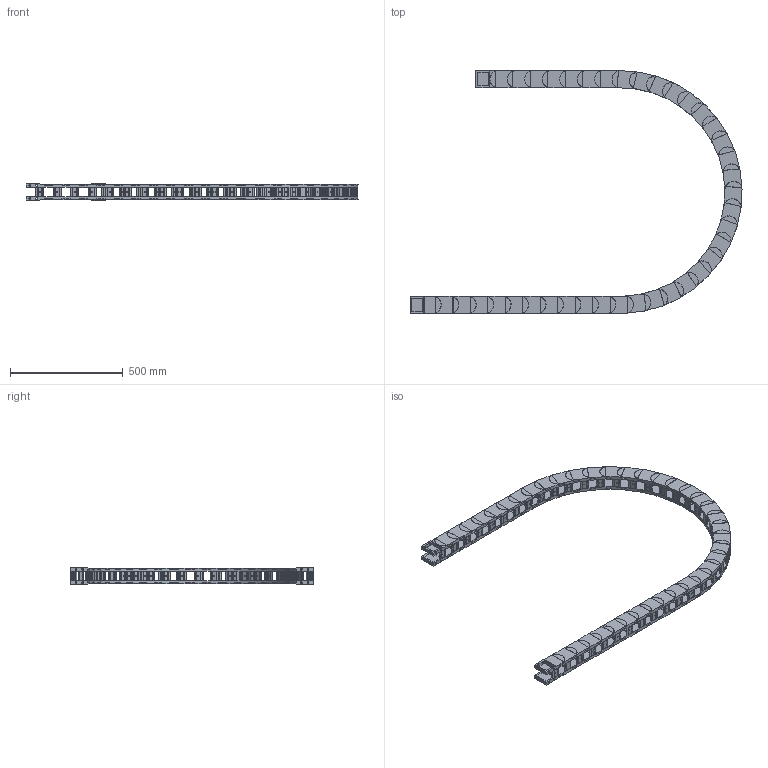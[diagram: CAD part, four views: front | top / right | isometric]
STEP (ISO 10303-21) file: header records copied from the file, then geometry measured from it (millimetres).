
FILE_DESCRIPTION((''),'2;1');
FILE_NAME('HD55-R500-ZPT_ASM','2022-06-17T19:58:05',('admin'),(''),'CREO PARAMETRIC BY PTC INC, 2021164','CREO PARAMETRIC BY PTC INC, 2021164','');
FILE_SCHEMA(('CONFIG_CONTROL_DESIGN','GEOMETRIC_VALIDATION_PROPERTIES_MIM'));
Length unit declared in the file: millimetre
Products named in the file (6): HD-55; 55-500001; HD55_ASM; H55-T1; H55-T2; HD55-R500-ZPT_ASM
Assembly tree (44 placements, depth 3):
  HD55-R500-ZPT_ASM
    HD55_ASM  x38
      HD-55
      55-500001
    H55-T1
    H55-T2
    55-500001  x2
Bounding box: 1472.73 x 1075.69 x 72.2 mm (x, y, z)
Volume: 8021433 mm3; surface area: 2531878.9 mm2
Topology: 160 solids, 160 shells, 2622 faces, 6726 edges, 4588 vertices
Faces by surface type: plane 2180, cylinder 442
Entity records: 8951 total; most frequent: CARTESIAN_POINT 1324, DIRECTION 1286, ORIENTED_EDGE 1172, EDGE_CURVE 586, AXIS2_PLACEMENT_3D 434, VECTOR 418, LINE 418, VERTEX_POINT 396
